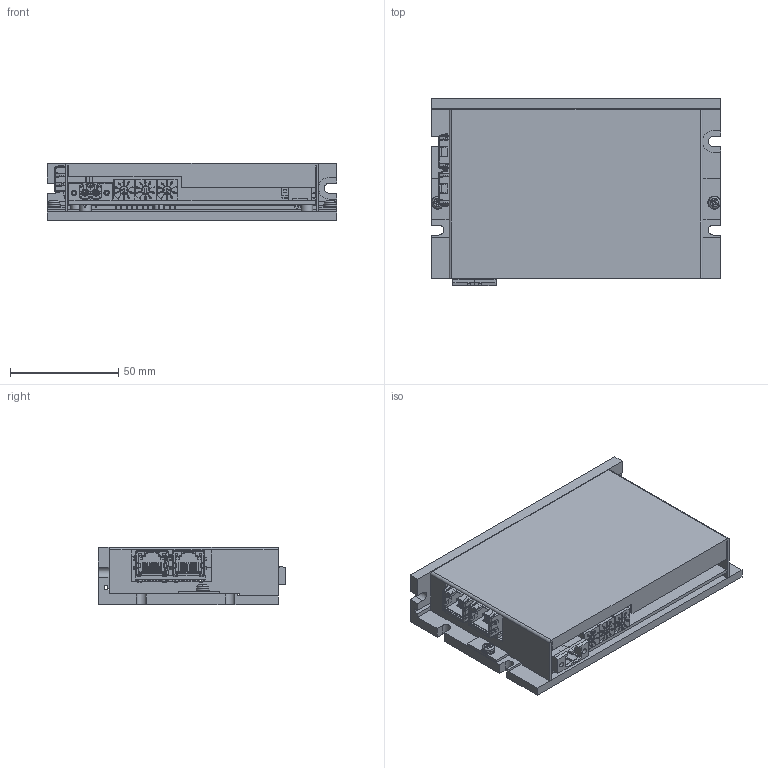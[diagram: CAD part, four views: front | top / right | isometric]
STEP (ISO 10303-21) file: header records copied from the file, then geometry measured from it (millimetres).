
FILE_DESCRIPTION (( 'STEP AP203' ), '1' );
FILE_NAME ('P52-DR-000-02-R00.STEP', '2016-12-21T06:37:34', ( '' ), ( '' ), 'SwSTEP 2.0', 'SolidWorks 2013', '' );
FILE_SCHEMA (( 'CONFIG_CONTROL_DESIGN' ));
Length unit declared in the file: millimetre
Products named in the file (17): PCB; YD-04GA; PTR_STL950_2F_50_H_HC-1; pan cross head_ks_KS 1023 PC- M3 x 6-N; PTR_STL950_2F_50_H_HC-2; spring lock washer_ks_KS 1324 - M3; PTR_STL950_2F_50_H_HC; plain washer small grade a_iso_Washer ISO 7092 - 3; _S-2031A_body; TM11R-5M2-88-LP; _Without knob-Dial_1; P52-DR-000-02-R00; S-2031A; M11-DR-000-01-R02; Ezi-MOTIONGATE PCB; M52-DR-000-01-R00; 442480029
Assembly tree (22 placements, depth 3):
  P52-DR-000-02-R00
    M11-DR-000-01-R02
    M52-DR-000-01-R00
    PCB
    PTR_STL950_2F_50_H_HC
      PTR_STL950_2F_50_H_HC-1
      PTR_STL950_2F_50_H_HC-2
    S-2031A  x3
      _S-2031A_body
      _Without knob-Dial_1
    Ezi-MOTIONGATE PCB
    442480029
    YD-04GA
    pan cross head_ks_KS 1023 PC- M3 x 6-N  x2
    spring lock washer_ks_KS 1324 - M3  x2
    plain washer small grade a_iso_Washer ISO 7092 - 3  x2
    TM11R-5M2-88-LP  x2
Bounding box: 134 x 86.8 x 26.5 mm (x, y, z)
Volume: 108592.3 mm3; surface area: 92123.7 mm2
Topology: 22 solids, 22 shells, 3625 faces, 9941 edges, 6502 vertices
Faces by surface type: plane 2372, cylinder 1134, cone 56, bspline 51, torus 8, sphere 4
Entity records: 78053 total; most frequent: CARTESIAN_POINT 16278, ORIENTED_EDGE 12856, DIRECTION 11918, EDGE_CURVE 6428, VECTOR 4942, LINE 4942, VERTEX_POINT 4211, AXIS2_PLACEMENT_3D 3488
